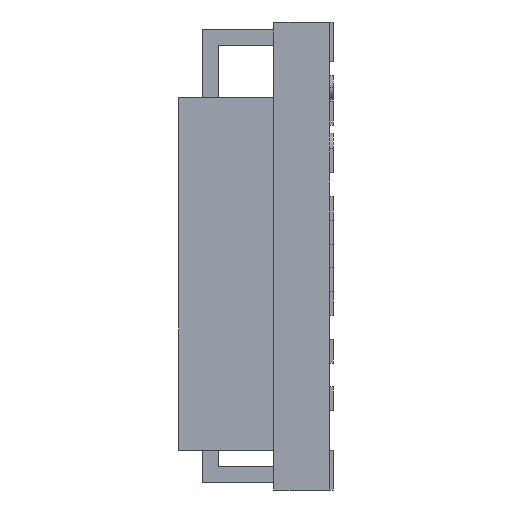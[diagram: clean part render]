
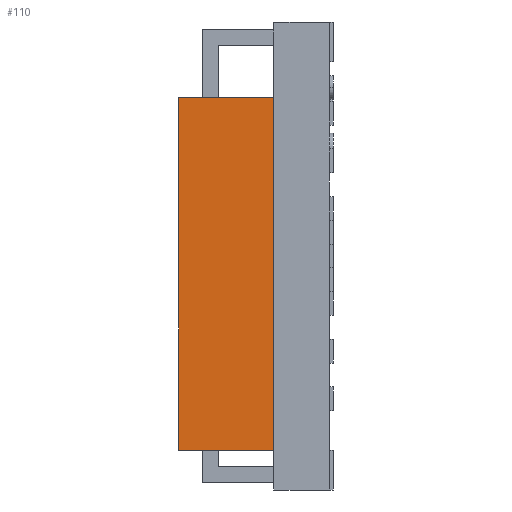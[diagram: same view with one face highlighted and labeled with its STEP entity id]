
A CAD part, left-side view. The second image highlights one B-rep face of the part: STEP entity #110.
In plain terms, the highlighted planar face has unit normal (-1, 0, 0).
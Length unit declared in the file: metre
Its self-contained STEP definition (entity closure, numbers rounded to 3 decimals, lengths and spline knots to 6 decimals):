
#110=ADVANCED_FACE('',(#350),#351,.T.);
#350=FACE_OUTER_BOUND('',#779,.T.);
#351=PLANE('',#780);
#779=EDGE_LOOP('',(#1656,#1657,#1658,#1659));
#780=AXIS2_PLACEMENT_3D('',#1660,#1661,#1662);
#1656=ORIENTED_EDGE('',*,*,#3594,.T.);
#1657=ORIENTED_EDGE('',*,*,#3595,.T.);
#1658=ORIENTED_EDGE('',*,*,#3596,.F.);
#1659=ORIENTED_EDGE('',*,*,#3592,.F.);
#1660=CARTESIAN_POINT('',(-0.00885,-0.00035,-0.00295));
#1661=DIRECTION('',(-1.0,0.0,0.0));
#1662=DIRECTION('',(0.0,0.0,1.0));
#3592=EDGE_CURVE('',#5007,#5009,#5010,.F.);
#3594=EDGE_CURVE('',#5007,#5012,#5013,.F.);
#3595=EDGE_CURVE('',#5012,#5014,#5015,.F.);
#3596=EDGE_CURVE('',#5009,#5014,#5016,.F.);
#5007=VERTEX_POINT('',#7140);
#5009=VERTEX_POINT('',#7143);
#5010=LINE('',#7144,#7145);
#5012=VERTEX_POINT('',#7148);
#5013=LINE('',#7149,#7150);
#5014=VERTEX_POINT('',#7151);
#5015=LINE('',#7152,#7153);
#5016=LINE('',#7154,#7155);
#7140=CARTESIAN_POINT('',(-0.00885,0.0019,-0.0054));
#7143=CARTESIAN_POINT('',(-0.00885,0.0019,-0.00095));
#7144=CARTESIAN_POINT('',(-0.00885,0.0019,-0.00295));
#7145=VECTOR('',#8926,1.0);
#7148=CARTESIAN_POINT('',(-0.00885,0.0007,-0.0054));
#7149=CARTESIAN_POINT('',(-0.00885,0.000187,-0.0054));
#7150=VECTOR('',#8928,1.0);
#7151=CARTESIAN_POINT('',(-0.00885,0.0007,-0.00095));
#7152=CARTESIAN_POINT('',(-0.00885,0.0007,0.00205));
#7153=VECTOR('',#8929,1.0);
#7154=CARTESIAN_POINT('',(-0.00885,0.000488,-0.00095));
#7155=VECTOR('',#8930,1.0);
#8926=DIRECTION('',(-0.0,0.,-1.0));
#8928=DIRECTION('',(0.0,1.0,0.));
#8929=DIRECTION('',(0.0,0.0,-1.0));
#8930=DIRECTION('',(0.0,1.0,0.));
